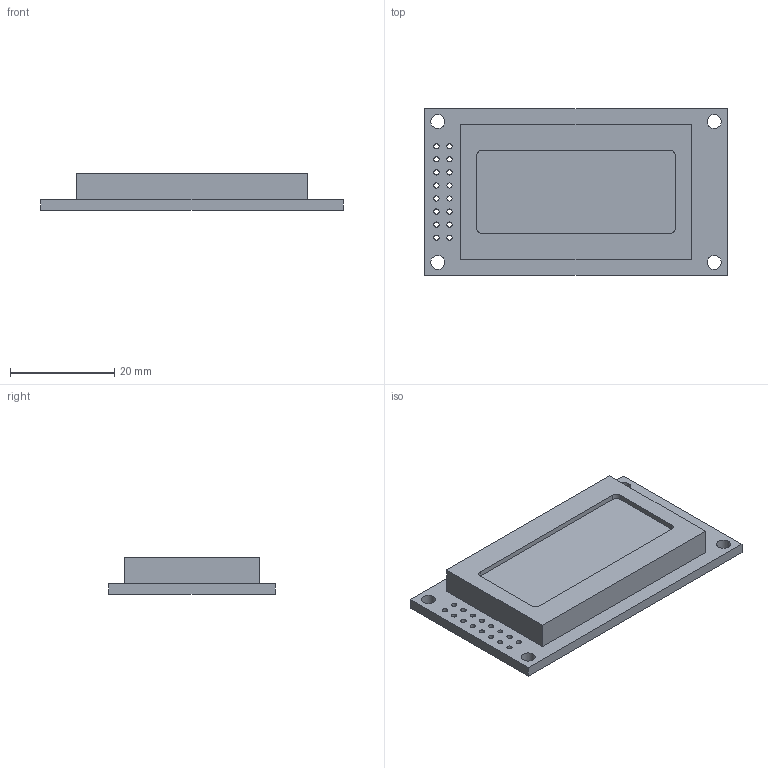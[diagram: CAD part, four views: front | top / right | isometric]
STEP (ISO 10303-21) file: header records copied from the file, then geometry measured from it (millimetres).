
FILE_DESCRIPTION(('FreeCAD Model'),'2;1');
FILE_NAME('Open CASCADE Shape Model','2023-05-06T18:44:57',('Author'),( ''),'Open CASCADE STEP processor 7.5','FreeCAD','Unknown');
FILE_SCHEMA(('AUTOMOTIVE_DESIGN { 1 0 10303 214 1 1 1 1 }'));
Length unit declared in the file: millimetre
Products named in the file (1): LCD_display 0802
Bounding box: 58 x 32 x 7 mm (x, y, z)
Volume: 8779.9 mm3; surface area: 4977.7 mm2
Topology: 1 solids, 1 shells, 40 faces, 108 edges, 72 vertices
Faces by surface type: cylinder 24, plane 16
Full cylindrical faces by diameter (mm): 1 x16, 2.7 x4
Entity records: 1459 total; most frequent: DIRECTION 218, CARTESIAN_POINT 201, ORIENTED_EDGE 176, EDGE_LOOP 102, AXIS2_PLACEMENT_3D 89, EDGE_CURVE 88, VERTEX_POINT 72, FACE_OUTER_BOUND 60
